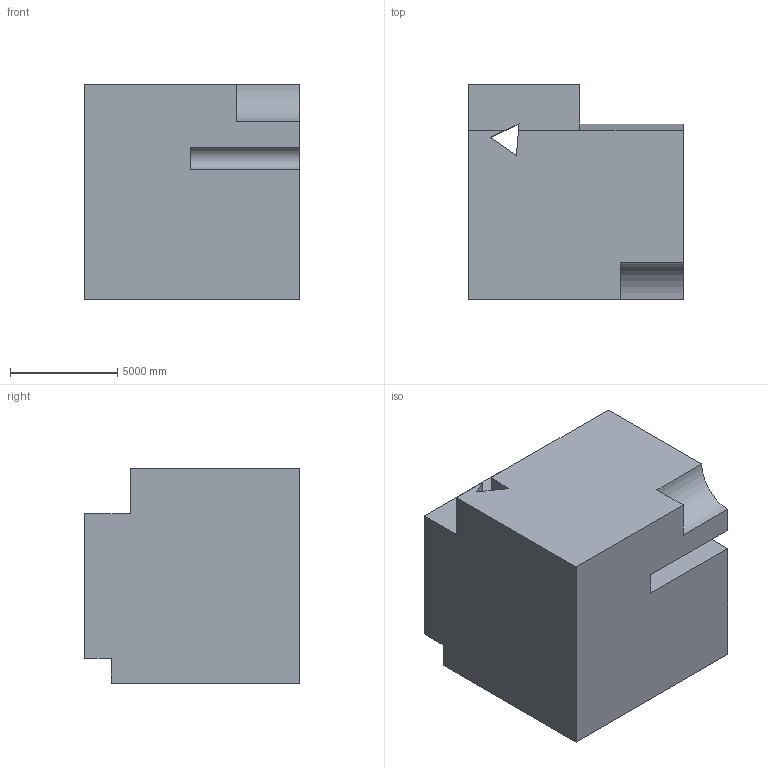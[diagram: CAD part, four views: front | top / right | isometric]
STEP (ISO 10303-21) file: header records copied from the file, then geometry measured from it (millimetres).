
FILE_DESCRIPTION (( 'STEP AP203' ), '1' );
FILE_NAME ('878.STEP', '2022-07-29T13:56:15', ( 'user' ), ( '' ), 'SwSTEP 2.0', 'SolidWorks 2021', '' );
FILE_SCHEMA (( 'CONFIG_CONTROL_DESIGN' ));
Length unit declared in the file: centimetre
Products named in the file (1): 878
Bounding box: 10000 x 10000 x 10000 mm (x, y, z)
Volume: 802564961969.7 mm3; surface area: 696117883.9 mm2
Topology: 1 solids, 1 shells, 40 faces, 114 edges, 76 vertices
Faces by surface type: plane 35, cylinder 5
Entity records: 1371 total; most frequent: CARTESIAN_POINT 231, ORIENTED_EDGE 228, DIRECTION 208, EDGE_CURVE 114, VECTOR 102, LINE 102, VERTEX_POINT 76, AXIS2_PLACEMENT_3D 53
